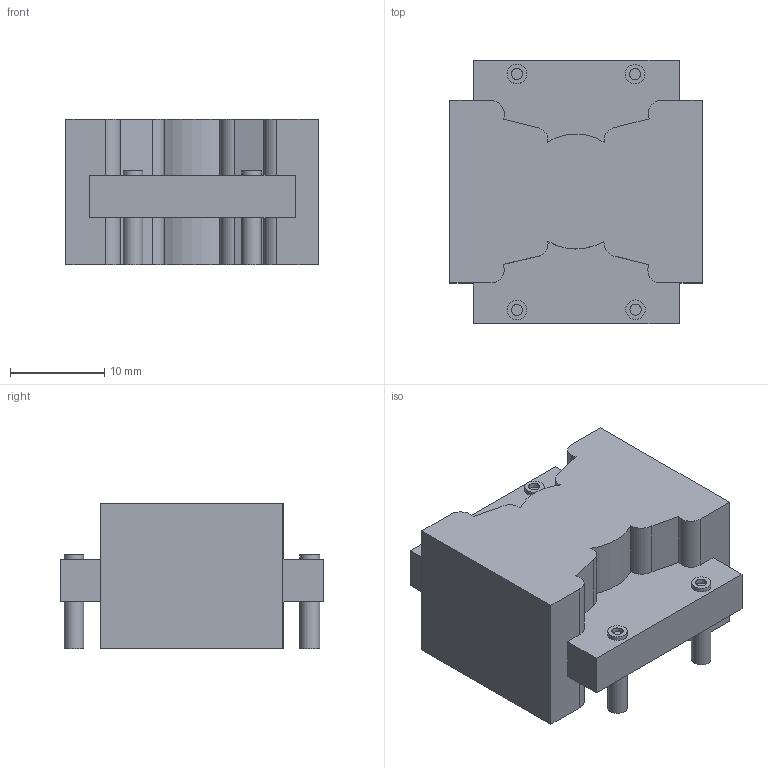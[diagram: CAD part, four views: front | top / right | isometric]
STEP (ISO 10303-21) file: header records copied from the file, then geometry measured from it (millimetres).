
FILE_DESCRIPTION(('FreeCAD Model'),'2;1');
FILE_NAME('Open CASCADE Shape Model','2024-08-22T00:15:08',('Author'),( ''),'Open CASCADE STEP processor 7.6','FreeCAD','Unknown');
FILE_SCHEMA(('AUTOMOTIVE_DESIGN { 1 0 10303 214 1 1 1 1 }'));
Length unit declared in the file: millimetre
Products named in the file (1): CORE
Bounding box: 26.84 x 28.04 x 15.5 mm (x, y, z)
Volume: 7912.2 mm3; surface area: 3277.8 mm2
Topology: 1 solids, 1 shells, 78 faces, 180 edges, 120 vertices
Faces by surface type: plane 42, cylinder 36
Full cylindrical faces by diameter (mm): 1.187 x8, 2.075 x8
Entity records: 4705 total; most frequent: CARTESIAN_POINT 955, DIRECTION 734, LINE 396, VECTOR 396, ORIENTED_EDGE 360, PCURVE 360, DEFINITIONAL_REPRESENTATION 360, EDGE_CURVE 180
